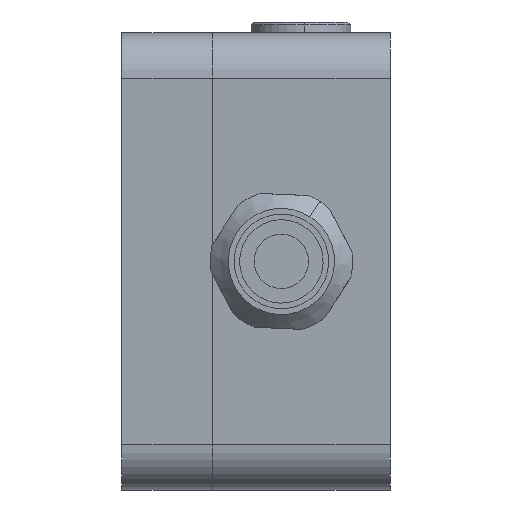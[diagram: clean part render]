
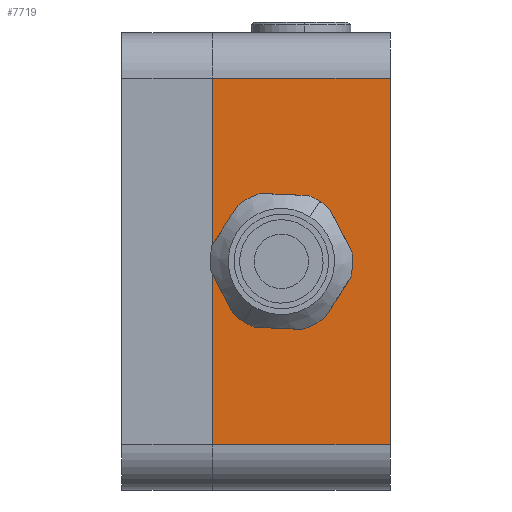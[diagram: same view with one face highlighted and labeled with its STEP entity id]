
A CAD part, left-side view. The second image highlights one B-rep face of the part: STEP entity #7719.
In plain terms, the highlighted planar face has unit normal (-1, 0, 0).
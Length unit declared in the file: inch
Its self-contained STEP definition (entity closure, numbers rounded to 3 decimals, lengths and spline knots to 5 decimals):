
#16 = AXIS2_PLACEMENT_3D ( 'NONE', #19786, #7646, #21831 ) ;
#58 = LINE ( 'NONE', #18255, #656 ) ;
#79 = ORIENTED_EDGE ( 'NONE', *, *, #10364, .T. ) ;
#178 = VERTEX_POINT ( 'NONE', #19809 ) ;
#338 = CARTESIAN_POINT ( 'NONE',  ( -2.955, 0.98, -1.01 ) ) ;
#656 = VECTOR ( 'NONE', #6124, 39.37008 ) ;
#1214 = VERTEX_POINT ( 'NONE', #16818 ) ;
#1598 = CARTESIAN_POINT ( 'NONE',  ( -2.955, 0., -1.01 ) ) ;
#2058 = ORIENTED_EDGE ( 'NONE', *, *, #10880, .T. ) ;
#2302 = ORIENTED_EDGE ( 'NONE', *, *, #10223, .T. ) ;
#2516 = VERTEX_POINT ( 'NONE', #7634 ) ;
#3394 = VECTOR ( 'NONE', #12280, 39.37008 ) ;
#3497 = VECTOR ( 'NONE', #10160, 39.37008 ) ;
#3806 = EDGE_CURVE ( 'NONE', #1214, #25494, #8752, .T. ) ;
#4412 = DIRECTION ( 'NONE',  ( 0., -1., 0. ) ) ;
#4417 = ORIENTED_EDGE ( 'NONE', *, *, #3806, .T. ) ;
#5005 = PLANE ( 'NONE',  #13390 ) ;
#5165 = VERTEX_POINT ( 'NONE', #21943 ) ;
#6124 = DIRECTION ( 'NONE',  ( 0., 0.94, 0.342 ) ) ;
#6155 = CARTESIAN_POINT ( 'NONE',  ( -2.955, 0.98, 1.01 ) ) ;
#6712 = VERTEX_POINT ( 'NONE', #1598 ) ;
#6991 = CIRCLE ( 'NONE', #25805, 0.301 ) ;
#7339 = CIRCLE ( 'NONE', #16, 0.301 ) ;
#7613 = VECTOR ( 'NONE', #4412, 39.37008 ) ;
#7634 = CARTESIAN_POINT ( 'NONE',  ( -2.955, 0.56399, -0.29884 ) ) ;
#7646 = DIRECTION ( 'NONE',  ( 1., 0., 0. ) ) ;
#7719 = ADVANCED_FACE ( 'NONE', ( #17867, #19779 ), #5005, .F. ) ;
#8348 = DIRECTION ( 'NONE',  ( 0., -0.94, -0.342 ) ) ;
#8507 = ORIENTED_EDGE ( 'NONE', *, *, #14776, .T. ) ;
#8752 = LINE ( 'NONE', #6155, #3394 ) ;
#9061 = ORIENTED_EDGE ( 'NONE', *, *, #14983, .T. ) ;
#9094 = DIRECTION ( 'NONE',  ( 1., 0., 0. ) ) ;
#9706 = EDGE_CURVE ( 'NONE', #178, #5165, #17815, .T. ) ;
#10160 = DIRECTION ( 'NONE',  ( 0., 0., 1. ) ) ;
#10223 = EDGE_CURVE ( 'NONE', #15770, #178, #7339, .T. ) ;
#10364 = EDGE_CURVE ( 'NONE', #2516, #15770, #58, .T. ) ;
#10407 = CARTESIAN_POINT ( 'NONE',  ( -2.955, 0.81967, -0.20578 ) ) ;
#10812 = DIRECTION ( 'NONE',  ( 0., 0., 1. ) ) ;
#10880 = EDGE_CURVE ( 'NONE', #5165, #2516, #6991, .T. ) ;
#11977 = CARTESIAN_POINT ( 'NONE',  ( -2.955, 0.6, 0. ) ) ;
#12280 = DIRECTION ( 'NONE',  ( 0., 1., 0. ) ) ;
#12355 = VECTOR ( 'NONE', #10812, 39.37008 ) ;
#12391 = CARTESIAN_POINT ( 'NONE',  ( -2.955, 0.98, 1.01 ) ) ;
#12606 = EDGE_CURVE ( 'NONE', #14106, #25494, #24993, .T. ) ;
#12990 = LINE ( 'NONE', #338, #7613 ) ;
#13390 = AXIS2_PLACEMENT_3D ( 'NONE', #15003, #9094, #23244 ) ;
#14006 = DIRECTION ( 'NONE',  ( 0., 0., -1. ) ) ;
#14106 = VERTEX_POINT ( 'NONE', #23437 ) ;
#14776 = EDGE_CURVE ( 'NONE', #14106, #6712, #12990, .T. ) ;
#14983 = EDGE_CURVE ( 'NONE', #6712, #1214, #21890, .T. ) ;
#15003 = CARTESIAN_POINT ( 'NONE',  ( -2.955, 0.98, 1.26 ) ) ;
#15770 = VERTEX_POINT ( 'NONE', #10407 ) ;
#16818 = CARTESIAN_POINT ( 'NONE',  ( -2.955, 0., 1.01 ) ) ;
#17815 = LINE ( 'NONE', #20489, #23856 ) ;
#17867 = FACE_BOUND ( 'NONE', #21716, .T. ) ;
#18068 = ORIENTED_EDGE ( 'NONE', *, *, #9706, .T. ) ;
#18255 = CARTESIAN_POINT ( 'NONE',  ( -2.955, 1.43234, 0.01721 ) ) ;
#19037 = CARTESIAN_POINT ( 'NONE',  ( -2.955, 0., 1.26 ) ) ;
#19779 = FACE_OUTER_BOUND ( 'NONE', #25610, .T. ) ;
#19786 = CARTESIAN_POINT ( 'NONE',  ( -2.955, 0.6, 0. ) ) ;
#19809 = CARTESIAN_POINT ( 'NONE',  ( -2.955, 0.63601, 0.29884 ) ) ;
#19850 = ORIENTED_EDGE ( 'NONE', *, *, #12606, .F. ) ;
#20245 = CARTESIAN_POINT ( 'NONE',  ( -2.955, 0.98, 1.26 ) ) ;
#20489 = CARTESIAN_POINT ( 'NONE',  ( -2.955, 1.24867, 0.52183 ) ) ;
#21716 = EDGE_LOOP ( 'NONE', ( #79, #2302, #18068, #2058 ) ) ;
#21831 = DIRECTION ( 'NONE',  ( 0., 0., -1. ) ) ;
#21890 = LINE ( 'NONE', #19037, #12355 ) ;
#21943 = CARTESIAN_POINT ( 'NONE',  ( -2.955, 0.38033, 0.20578 ) ) ;
#23244 = DIRECTION ( 'NONE',  ( 0., 0., -1. ) ) ;
#23437 = CARTESIAN_POINT ( 'NONE',  ( -2.955, 0.98, -1.01 ) ) ;
#23856 = VECTOR ( 'NONE', #8348, 39.37008 ) ;
#24993 = LINE ( 'NONE', #20245, #3497 ) ;
#25494 = VERTEX_POINT ( 'NONE', #12391 ) ;
#25610 = EDGE_LOOP ( 'NONE', ( #19850, #8507, #9061, #4417 ) ) ;
#25805 = AXIS2_PLACEMENT_3D ( 'NONE', #11977, #26133, #14006 ) ;
#26133 = DIRECTION ( 'NONE',  ( 1., 0., 0. ) ) ;
